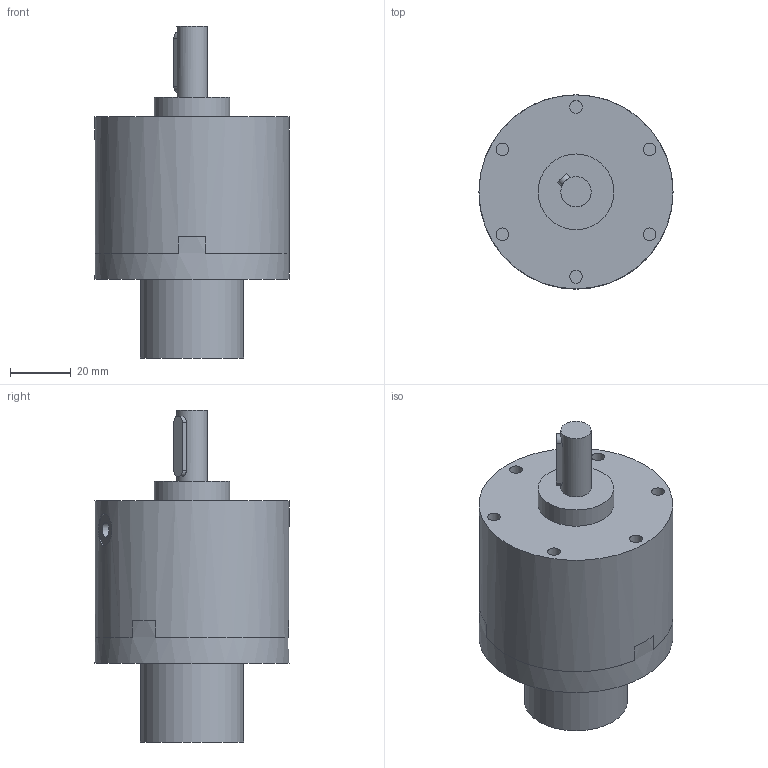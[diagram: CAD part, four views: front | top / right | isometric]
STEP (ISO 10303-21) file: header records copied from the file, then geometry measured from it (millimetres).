
FILE_DESCRIPTION(/* description */ (''),/* implementation_level */ '2;1');
FILE_NAME(/* name */ 'I:\Area Tecnica\Disegni\VARIE-3D\Componenti\6420\6420_##_###_#\6420_40_090_R.stp',/* time_stamp */ '2017-04-08T10:41:49+02:00',/* author */ ('Maniean1'),/* organization */ ('Pneumax S.p.A.'),/* preprocessor_version */ 'ST-DEVELOPER v15.2',/* originating_system */ 'Autodesk Inventor 2014',/* authorisation */ '');
FILE_SCHEMA (('AUTOMOTIVE_DESIGN { 1 0 10303 214 3 1 1 }'));
Length unit declared in the file: millimetre
Products named in the file (6): 6420_40_C; 6420_40_S; 6420_40_90; 6420_40_R; K6420_40_###_R; 6420_40_090_R
Bounding box: 64 x 64 x 109.5 mm (x, y, z)
Volume: 202456.9 mm3; surface area: 36037.7 mm2
Topology: 3 solids, 3 shells, 79 faces, 185 edges, 125 vertices
Faces by surface type: plane 45, cylinder 34
Full cylindrical faces by diameter (mm): 4.2 x6, 5 x8, 10 x2, 10.5 x2, 25 x2, 34 x1, 64 x2
Entity records: 2370 total; most frequent: CARTESIAN_POINT 450, DIRECTION 402, ORIENTED_EDGE 296, AXIS2_PLACEMENT_3D 168, EDGE_CURVE 148, EDGE_LOOP 124, VERTEX_POINT 112, ADVANCED_FACE 79
